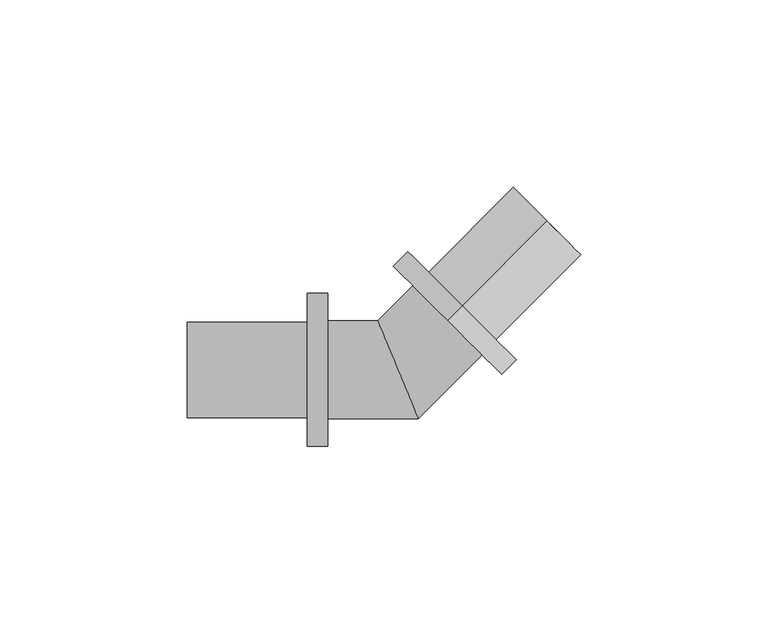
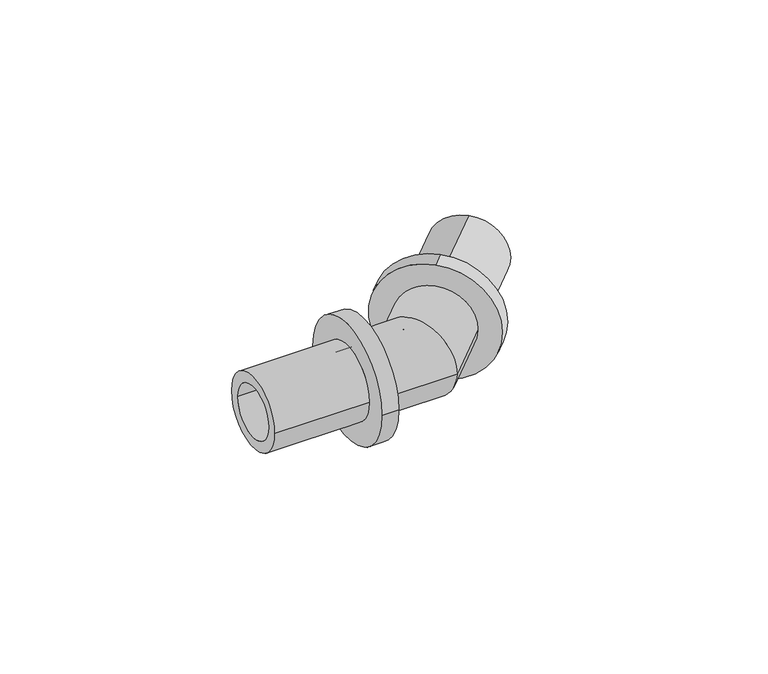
"""IFC4 building model written with IfcOpenShell, lengths in millimetres: pipe fitting geometry, RAUTITAN_Corner_PX : RTI PX C DN."""

import ifcopenshell
import ifcopenshell.guid

model = None  # the IFC model being written
_history = None  # IfcOwnerHistory: only IFC2X3 demands one
_inside = {}  # id of a spatial element -> (the spatial element, [elements in it])
_under = {}  # id of a project, library or spatial element -> (it, [spatial elements below it])
_declared = {}  # id of a project -> (the project, [libraries it declares])
_typed = {}  # id of a type object -> (the type object, [elements of that type])
_made_of = {}  # id of a material, layer set ... -> (it, [elements and type objects made of it])


def new_model(schema):
    """Start an empty IFC model of exactly this schema.

    Asked for "IFC4X3", IfcOpenShell would pick the latest addendum, in which some entities
    have other attributes; the version numbers below select the first issue.
    IFC2X3 requires an IfcOwnerHistory on every rooted entity: one is made here for all.
    """
    global model, _history
    if schema == "IFC4X3":
        model = ifcopenshell.file(schema_version=(4, 3, 0, 0))
    else:
        model = ifcopenshell.file(schema=schema)
    _inside.clear()
    _under.clear()
    _declared.clear()
    _typed.clear()
    _made_of.clear()
    _history = None
    if model.schema == "IFC2X3":
        org = make("IfcOrganization", Name="unknown")
        user = make(
            "IfcPersonAndOrganization",
            ThePerson=make("IfcPerson", FamilyName="unknown"),
            TheOrganization=org,
        )
        app = make(
            "IfcApplication",
            ApplicationDeveloper=org,
            Version="unknown",
            ApplicationFullName="unknown",
            ApplicationIdentifier="unknown",
        )
        _history = make(
            "IfcOwnerHistory",
            OwningUser=user,
            OwningApplication=app,
            ChangeAction="ADDED",
            CreationDate=0,
        )
    return model


def make(cls, **values):
    """One entity of the class cls with the attributes given. An attribute that is None is left unset."""
    return model.create_entity(
        cls, **{name: value for name, value in values.items() if value is not None}
    )


def rooted(cls, **values):
    """An entity with a GlobalId (a new one), such as an element, a storey or a relation."""
    return make(cls, GlobalId=ifcopenshell.guid.new(), OwnerHistory=_history, **values)


def si_unit(unit_type, name, prefix=None):
    """IfcSIUnit, for example si_unit("LENGTHUNIT", "METRE", prefix="MILLI")."""
    return make("IfcSIUnit", UnitType=unit_type, Prefix=prefix, Name=name)


def assignment(units):
    """IfcUnitAssignment: the units of a project."""
    return None if units is None else make("IfcUnitAssignment", Units=units)


def point(xyz):
    """IfcCartesianPoint."""
    return None if xyz is None else make("IfcCartesianPoint", Coordinates=xyz)


def direction(xyz):
    """IfcDirection."""
    return None if xyz is None else make("IfcDirection", DirectionRatios=xyz)


def frame(location, z_axis=None, x_axis=None):
    """IfcAxis2Placement3D, a coordinate frame: its origin and axes. An axis left out is left unset."""
    return make(
        "IfcAxis2Placement3D",
        Location=point(location),
        Axis=direction(z_axis),
        RefDirection=direction(x_axis),
    )


def origin():
    """The frame at (0, 0, 0) with its axes left unset."""
    return frame((0.0, 0.0, 0.0))


def place(relative_to, where):
    """IfcLocalPlacement: puts the frame where relative to a parent placement (None: the world)."""
    return make(
        "IfcLocalPlacement", PlacementRelTo=relative_to, RelativePlacement=where
    )


def context(
    kind, dimensions, precision=None, world=None, true_north=None, identifier=None
):
    """IfcGeometricRepresentationContext, for example the 3D "Model" context."""
    return make(
        "IfcGeometricRepresentationContext",
        ContextIdentifier=identifier,
        ContextType=kind,
        CoordinateSpaceDimension=dimensions,
        Precision=precision,
        WorldCoordinateSystem=world,
        TrueNorth=true_north,
    )


def project(units=None, contexts=None):
    """IfcProject with its units and contexts."""
    return rooted(
        "IfcProject",
        Name="project",
        RepresentationContexts=contexts,
        UnitsInContext=assignment(units),
    )


def spatial(cls, under=None, at=None, **own):
    """A site, building, storey or space (cls), placed at a placement, below another one or the project."""
    s = rooted(cls, ObjectPlacement=at, **own)
    if under is not None:
        _under.setdefault(under.id(), (under, []))[1].append(s)
    return s


def polyline(points):
    """IfcPolyline through the points."""
    return make("IfcPolyline", Points=[point(p) for p in points])


def circle_curve(where, radius):
    """IfcCircle in the frame where."""
    return make("IfcCircle", Position=where, Radius=radius)


def ellipse_curve(where, semi_axis1, semi_axis2):
    """IfcEllipse in the frame where."""
    return make(
        "IfcEllipse", Position=where, SemiAxis1=semi_axis1, SemiAxis2=semi_axis2
    )


def shape(context_of_items, identifier, shape_type, items):
    """IfcShapeRepresentation: the items that make up one representation, for example the "Body"."""
    return make(
        "IfcShapeRepresentation",
        ContextOfItems=context_of_items,
        RepresentationIdentifier=identifier,
        RepresentationType=shape_type,
        Items=items,
    )


def source(mapping_origin, context_of_items, identifier, shape_type, items):
    """IfcRepresentationMap: a shape defined once, which mapped items show again and again."""
    return make(
        "IfcRepresentationMap",
        MappingOrigin=mapping_origin,
        MappedRepresentation=shape(context_of_items, identifier, shape_type, items),
    )


def transform(
    local_origin,
    x_axis=None,
    y_axis=None,
    z_axis=None,
    scale=None,
    scale2=None,
    scale3=None,
    uniform=True,
):
    """IfcCartesianTransformationOperator3D, or its non-uniform kind. x_axis, y_axis, z_axis: its Axis1, 2, 3."""
    if uniform:
        return make(
            "IfcCartesianTransformationOperator3D",
            Axis1=direction(x_axis),
            Axis2=direction(y_axis),
            LocalOrigin=point(local_origin),
            Scale=scale,
            Axis3=direction(z_axis),
        )
    return make(
        "IfcCartesianTransformationOperator3DnonUniform",
        Axis1=direction(x_axis),
        Axis2=direction(y_axis),
        LocalOrigin=point(local_origin),
        Scale=scale,
        Axis3=direction(z_axis),
        Scale2=scale2,
        Scale3=scale3,
    )


def mapped(mapping_source, mapping_target):
    """IfcMappedItem: shows the shape of a source again, moved by a transform."""
    return make(
        "IfcMappedItem", MappingSource=mapping_source, MappingTarget=mapping_target
    )


def made_of(thing, what):
    """Note that an element or type object is made of a material, layer set ...; save() writes the relation."""
    if what is not None:
        _made_of.setdefault(what.id(), (what, []))[1].append(thing)
    return thing


def element(
    cls,
    number,
    at=None,
    inside=None,
    cuts=None,
    type_object=None,
    material=None,
    context=None,
    identifier="Body",
    shape_type=None,
    held_by="IfcProductDefinitionShape",
    body=None,
    shapes=None,
    **own,
):
    """One element of the class cls, such as IfcWall. Its Tag is "e" and its number.

    at: its placement. inside: the storey or other place that contains it. cuts: it is an
    opening in that element (IfcRelVoidsElement). A single representation is given by context,
    identifier, shape_type and body (its items); several are given by shapes. held_by: the class
    of the entity that holds the representations. save() writes the other relations.
    """
    e = rooted(cls, Tag="e%d" % number, ObjectPlacement=at, **own)
    if body is not None:
        shapes = [shape(context, identifier, shape_type, body)]
    if shapes is not None:
        e.Representation = make(held_by, Representations=shapes)
    if inside is not None:
        _inside.setdefault(inside.id(), (inside, []))[1].append(e)
    if cuts is not None:
        rooted(
            "IfcRelVoidsElement", RelatingBuildingElement=cuts, RelatedOpeningElement=e
        )
    if type_object is not None:
        _typed.setdefault(type_object.id(), (type_object, []))[1].append(e)
    return made_of(e, material)


def aggregate(whole, parts):
    """IfcRelAggregates: a whole, such as a stair, and the parts it consists of."""
    return rooted("IfcRelAggregates", RelatingObject=whole, RelatedObjects=parts)


def save(model, path):
    """Write the relations noted so far, then the file.

    IfcRelAggregates (storeys below a building ...), IfcRelContainedInSpatialStructure (elements
    in a storey), IfcRelDefinesByType, IfcRelAssociatesMaterial and IfcRelDeclares: one each for
    every whole, place, type object, material and project.
    """
    for whole, parts in _under.values():
        aggregate(whole, parts)
    for where, things in _inside.values():
        rooted(
            "IfcRelContainedInSpatialStructure",
            RelatedElements=things,
            RelatingStructure=where,
        )
    for kind, things in _typed.values():
        rooted("IfcRelDefinesByType", RelatedObjects=things, RelatingType=kind)
    for what, things in _made_of.values():
        rooted("IfcRelAssociatesMaterial", RelatedObjects=things, RelatingMaterial=what)
    for by, libraries in _declared.values():
        rooted("IfcRelDeclares", RelatingContext=by, RelatedDefinitions=libraries)
    model.write(path)


def plane_surface(at):
    """IfcPlane: the flat surface through the origin of the frame at, square to its z axis."""
    return make("IfcPlane", Position=at)


def cylinder_surface(at, radius):
    """IfcCylindricalSurface: all points at the distance radius from the z axis of the frame at."""
    return make("IfcCylindricalSurface", Position=at, Radius=radius)


def revolved_surface(curve, axis_point, axis_direction):
    """IfcSurfaceOfRevolution: the curve turned about the line through axis_point along axis_direction."""
    return make(
        "IfcSurfaceOfRevolution",
        SweptCurve=make("IfcArbitraryOpenProfileDef", ProfileType="CURVE", Curve=curve),
        AxisPosition=make("IfcAxis1Placement", Location=point(axis_point), Axis=direction(axis_direction)),
    )


def advanced_brep(points, edges, surfaces, faces):
    """IfcAdvancedBrep: a solid bounded by faces that lie on surfaces and meet in shared edges.

    An edge is (start, end): straight between two places in points (the first is 0);
    or (start, end, curve); or (start, end, curve, False) where it runs against its curve.
    A face is (place in surfaces, loops), or (place, loops, False) where it looks against
    its surface's normal. A loop lists edges by number (the first is 1), with a minus sign
    where the edge is run from its end to its start. The first loop is the outer one.
    """
    corners = [point(p) for p in points]
    vertices = [make("IfcVertexPoint", VertexGeometry=c) for c in corners]
    made = []
    for start, end, *more in edges:
        made.append(
            make(
                "IfcEdgeCurve",
                EdgeStart=vertices[start],
                EdgeEnd=vertices[end],
                EdgeGeometry=more[0] if more else make("IfcPolyline", Points=[corners[start], corners[end]]),
                SameSense=more[1] if len(more) > 1 else True,
            )
        )
    hull = []
    for where, loops, *sense in faces:
        bounds = []
        for j, loop in enumerate(loops):
            ring = [make("IfcOrientedEdge", EdgeElement=made[abs(k) - 1], Orientation=k > 0) for k in loop]
            bounds.append(
                make(
                    "IfcFaceOuterBound" if j == 0 else "IfcFaceBound",
                    Bound=make("IfcEdgeLoop", EdgeList=ring),
                    Orientation=True,
                )
            )
        hull.append(make("IfcAdvancedFace", Bounds=bounds, FaceSurface=surfaces[where], SameSense=sense[0] if sense else True))
    return make("IfcAdvancedBrep", Outer=make("IfcClosedShell", CfsFaces=hull))


def pipe_fitting_39403945(model_context):
    return source(origin(), model_context, "Body", "AdvancedBrep", [
        advanced_brep(
        [(17.1213203, 17.1213203, 20.45), (17.1213203, 17.1213203, -20.45), (13.232233, 13.232233, -20.45), (13.232233, 13.232233, 20.45), (39.7487373, 39.7487373, 12.75), (39.7487373, 39.7487373, -12.75), (17.1213203, 17.1213203, -12.75), (17.1213203, 17.1213203, 12.75), (13.232233, 13.232233, 9.05), (13.232233, 13.232233, -9.05), (39.7487373, 39.7487373, -9.05), (39.7487373, 39.7487373, 9.05)],
        [
            (0, 1, circle_curve(frame((17.1213203, 17.1213203, 0.0), z_axis=(-0.707106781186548, -0.707106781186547, 0.0), x_axis=(0.0, 0.0, -1.0)), 20.45)),
            (1, 2),
            (2, 3, circle_curve(frame((13.232233, 13.232233, 0.0), z_axis=(0.707106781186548, 0.707106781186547, 0.0), x_axis=(0.0, 0.0, -1.0)), 20.45)),
            (3, 0),
            (4, 5, circle_curve(frame((39.7487373, 39.7487373, 0.0), z_axis=(-0.707106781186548, -0.707106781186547, 0.0), x_axis=(0.0, 0.0, -1.0)), 12.75)),
            (5, 6),
            (6, 7, circle_curve(frame((17.1213203, 17.1213203, 0.0), z_axis=(0.707106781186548, 0.707106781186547, 0.0), x_axis=(0.0, 0.0, -1.0)), 12.75)),
            (7, 4),
            (8, 9, circle_curve(frame((13.232233, 13.232233, 0.0), z_axis=(-0.707106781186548, -0.707106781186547, 0.0), x_axis=(0.0, 0.0, -1.0)), 9.05)),
            (9, 10),
            (10, 11, circle_curve(frame((39.7487373, 39.7487373, 0.0), z_axis=(0.707106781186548, 0.707106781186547, 0.0), x_axis=(0.0, 0.0, -1.0)), 9.05)),
            (11, 8),
            (1, 0, circle_curve(frame((17.1213203, 17.1213203, 0.0), z_axis=(-0.707106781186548, -0.707106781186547, 0.0), x_axis=(0.0, 0.0, 1.0)), 20.45)),
            (3, 2, circle_curve(frame((13.232233, 13.232233, 0.0), z_axis=(0.707106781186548, 0.707106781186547, 0.0), x_axis=(0.0, 0.0, 1.0)), 20.45)),
            (6, 7, circle_curve(frame((17.1213203, 17.1213203, 0.0), z_axis=(-0.707106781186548, -0.707106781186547, 0.0), x_axis=(0.0, 0.0, 1.0)), 12.75)),
            (5, 4, circle_curve(frame((39.7487373, 39.7487373, 0.0), z_axis=(-0.707106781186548, -0.707106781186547, 0.0), x_axis=(0.0, 0.0, 1.0)), 12.75)),
            (10, 11, circle_curve(frame((39.7487373, 39.7487373, 0.0), z_axis=(-0.707106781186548, -0.707106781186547, 0.0), x_axis=(0.0, 0.0, 1.0)), 9.05)),
            (9, 8, circle_curve(frame((13.232233, 13.232233, 0.0), z_axis=(-0.707106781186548, -0.707106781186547, 0.0), x_axis=(0.0, 0.0, 1.0)), 9.05)),
        ],
        [
            cylinder_surface(frame((13.232233, 13.232233, 0.0), z_axis=(0.707106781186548, 0.707106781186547, 0.0), x_axis=(0.0, 0.0, -1.0)), 20.45),
            cylinder_surface(frame((13.232233, 13.232233, 0.0), z_axis=(0.707106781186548, 0.707106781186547, 0.0), x_axis=(0.0, 0.0, -1.0)), 12.75),
            revolved_surface(polyline([(39.748737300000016, 39.74873729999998, -9.05), (13.232233, 13.232233, -9.05)]), (13.232233, 13.232233, 0.0), (0.707106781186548, 0.707106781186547, 0.0)),
            cylinder_surface(frame((13.232233, 13.232233, 0.0), z_axis=(0.707106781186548, 0.707106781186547, 0.0), x_axis=(0.0, 0.0, 1.0)), 20.45),
            plane_surface(frame((17.1213203, 17.1213203, 0.0), z_axis=(0.707106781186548, 0.707106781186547, 0.0), x_axis=(0.0, 0.0, 1.0))),
            cylinder_surface(frame((13.232233, 13.232233, 0.0), z_axis=(0.707106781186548, 0.707106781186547, 0.0), x_axis=(0.0, 0.0, 1.0)), 12.75),
            plane_surface(frame((39.7487373, 39.7487373, 0.0), z_axis=(0.707106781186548, 0.707106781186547, 0.0), x_axis=(0.0, 0.0, 1.0))),
            revolved_surface(polyline([(39.748737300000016, 39.74873729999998, 9.05), (13.232233, 13.232233, 9.05)]), (13.232233, 13.232233, 0.0), (0.707106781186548, 0.707106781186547, 0.0)),
            plane_surface(frame((13.232233, 13.232233, 0.0), z_axis=(-0.707106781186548, -0.707106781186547, 0.0), x_axis=(0.0, 0.0, 1.0))),
        ],
        [
            (0, [[1, 2, 3, 4]]),
            (1, [[5, 6, 7, 8]]),
            (2, [[9, 10, 11, 12]]),
            (3, [[13, -4, 14, -2]]),
            (4, [[-13, -1], [15, -7]]),
            (5, [[16, -8, -15, -6]]),
            (6, [[-16, -5], [17, -11]]),
            (7, [[18, -12, -17, -10]]),
            (8, [[-14, -3], [-18, -9]]),
        ],
    ),
        advanced_brep(
        [(-24.2132034, -20.45, 0.0), (-24.2132034, 20.45, 0.0), (-18.7132034, 20.45, 0.0), (-18.7132034, -20.45, 0.0), (-56.2132034, -12.75, 0.0), (-56.2132034, 12.75, 0.0), (-24.2132034, 12.75, 0.0), (-24.2132034, -12.75, 0.0), (-18.7132034, -9.05, 0.0), (-18.7132034, 9.05, 0.0), (-56.2132034, 9.05, 0.0), (-56.2132034, -9.05, 0.0)],
        [
            (0, 1, circle_curve(frame((-24.2132034, 0.0, 0.0), z_axis=(1.0, 0.0, 0.0), x_axis=(0.0, 1.0, 0.0)), 20.45)),
            (1, 2),
            (2, 3, circle_curve(frame((-18.7132034, 0.0, 0.0), z_axis=(-1.0, 0.0, 0.0), x_axis=(0.0, 1.0, 0.0)), 20.45)),
            (3, 0),
            (4, 5, circle_curve(frame((-56.2132034, 0.0, 0.0), z_axis=(1.0, 0.0, 0.0), x_axis=(0.0, 1.0, 0.0)), 12.75)),
            (5, 6),
            (6, 7, circle_curve(frame((-24.2132034, 0.0, 0.0), z_axis=(-1.0, 0.0, 0.0), x_axis=(0.0, 1.0, 0.0)), 12.75)),
            (7, 4),
            (8, 9, circle_curve(frame((-18.7132034, 0.0, 0.0), z_axis=(1.0, 0.0, 0.0), x_axis=(0.0, 1.0, 0.0)), 9.05)),
            (9, 10),
            (10, 11, circle_curve(frame((-56.2132034, 0.0, 0.0), z_axis=(-1.0, 0.0, 0.0), x_axis=(0.0, 1.0, 0.0)), 9.05)),
            (11, 8),
            (1, 0, circle_curve(frame((-24.2132034, 0.0, 0.0), z_axis=(1.0, 0.0, 0.0), x_axis=(0.0, -1.0, 0.0)), 20.45)),
            (3, 2, circle_curve(frame((-18.7132034, 0.0, 0.0), z_axis=(-1.0, 0.0, 0.0), x_axis=(0.0, -1.0, 0.0)), 20.45)),
            (6, 7, circle_curve(frame((-24.2132034, 0.0, 0.0), z_axis=(1.0, 0.0, 0.0), x_axis=(0.0, -1.0, 0.0)), 12.75)),
            (5, 4, circle_curve(frame((-56.2132034, 0.0, 0.0), z_axis=(1.0, 0.0, 0.0), x_axis=(0.0, -1.0, 0.0)), 12.75)),
            (10, 11, circle_curve(frame((-56.2132034, 0.0, 0.0), z_axis=(1.0, 0.0, 0.0), x_axis=(0.0, -1.0, 0.0)), 9.05)),
            (9, 8, circle_curve(frame((-18.7132034, 0.0, 0.0), z_axis=(1.0, 0.0, 0.0), x_axis=(0.0, -1.0, 0.0)), 9.05)),
        ],
        [
            cylinder_surface(frame((-18.7132034, 0.0, 0.0), z_axis=(-1.0, 0.0, 0.0), x_axis=(0.0, 1.0, 0.0)), 20.45),
            cylinder_surface(frame((-18.7132034, 0.0, 0.0), z_axis=(-1.0, 0.0, 0.0), x_axis=(0.0, 1.0, 0.0)), 12.75),
            revolved_surface(polyline([(-56.2132034, 9.05, 0.0), (-18.7132034, 9.05, 0.0)]), (-18.7132034, 0.0, 0.0), (-1.0, 0.0, 0.0)),
            cylinder_surface(frame((-18.7132034, 0.0, 0.0), z_axis=(-1.0, 0.0, 0.0), x_axis=(0.0, -1.0, 0.0)), 20.45),
            plane_surface(frame((-24.2132034, 0.0, 0.0), z_axis=(-1.0, 0.0, 0.0), x_axis=(0.0, -1.0, 0.0))),
            cylinder_surface(frame((-18.7132034, 0.0, 0.0), z_axis=(-1.0, 0.0, 0.0), x_axis=(0.0, -1.0, 0.0)), 12.75),
            plane_surface(frame((-56.2132034, 0.0, 0.0), z_axis=(-1.0, 0.0, 0.0), x_axis=(0.0, -1.0, 0.0))),
            revolved_surface(polyline([(-56.2132034, -9.05, 0.0), (-18.7132034, -9.05, 0.0)]), (-18.7132034, 0.0, 0.0), (-1.0, 0.0, 0.0)),
            plane_surface(frame((-18.7132034, 0.0, 0.0), z_axis=(1.0, 0.0, 0.0), x_axis=(0.0, -1.0, 0.0))),
        ],
        [
            (0, [[1, 2, 3, 4]]),
            (1, [[5, 6, 7, 8]]),
            (2, [[9, 10, 11, 12]]),
            (3, [[13, -4, 14, -2]]),
            (4, [[-13, -1], [15, -7]]),
            (5, [[16, -8, -15, -6]]),
            (6, [[-16, -5], [17, -11]]),
            (7, [[18, -12, -17, -10]]),
            (8, [[-14, -3], [-18, -9]]),
        ],
    ),
        advanced_brep(
        [(-18.7132034, -13.05, 0.0), (-18.7132034, 13.05, 0.0), (-18.7132034, -9.05, 0.0), (-18.7132034, 9.05, 0.0), (-3.7486327, 9.05, 0.0), (3.7486327, -9.05, 0.0), (22.4599765, 4.0044896, 0.0), (4.0044896, 22.4599765, 0.0), (19.6315494, 6.8329167, 0.0), (6.8329167, 19.6315494, 0.0), (5.405487, -13.05, 0.0), (-5.405487, 13.05, 0.0)],
        [
            (0, 1, circle_curve(frame((-18.7132034, 0.0, 0.0), z_axis=(-1.0, 0.0, 0.0), x_axis=(0.0, 1.0, 0.0)), 13.05)),
            (1, 0, circle_curve(frame((-18.7132034, 0.0, 0.0), z_axis=(-1.0, 0.0, 0.0), x_axis=(0.0, 1.0, 0.0)), 13.05)),
            (2, 3, circle_curve(frame((-18.7132034, 0.0, 0.0), z_axis=(1.0, 0.0, 0.0), x_axis=(0.0, 1.0, 0.0)), 9.05)),
            (3, 2, circle_curve(frame((-18.7132034, 0.0, 0.0), z_axis=(1.0, 0.0, 0.0), x_axis=(0.0, 1.0, 0.0)), 9.05)),
            (3, 4),
            (4, 5, ellipse_curve(frame((0.0, 0.0, 0.0), z_axis=(0.9238795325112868, 0.38268343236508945, 0.0), x_axis=(0.3826834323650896, -0.923879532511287, 0.0)), 9.7956494, 9.05)),
            (5, 2),
            (5, 4, ellipse_curve(frame((0.0, 0.0, 0.0), z_axis=(0.9238795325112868, 0.38268343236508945, 0.0), x_axis=(0.3826834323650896, -0.923879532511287, 0.0)), 9.7956494, 9.05)),
            (6, 7, circle_curve(frame((13.232233, 13.232233, 0.0), z_axis=(0.707106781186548, 0.707106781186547, 0.0), x_axis=(-0.707106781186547, 0.707106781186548, 0.0)), 13.05)),
            (7, 6, circle_curve(frame((13.232233, 13.232233, 0.0), z_axis=(0.707106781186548, 0.707106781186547, 0.0), x_axis=(-0.707106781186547, 0.707106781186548, 0.0)), 13.05)),
            (8, 9, circle_curve(frame((13.232233, 13.232233, 0.0), z_axis=(-0.707106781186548, -0.707106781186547, 0.0), x_axis=(-0.707106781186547, 0.707106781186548, 0.0)), 9.05)),
            (9, 8, circle_curve(frame((13.232233, 13.232233, 0.0), z_axis=(-0.707106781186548, -0.707106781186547, 0.0), x_axis=(-0.707106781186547, 0.707106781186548, 0.0)), 9.05)),
            (4, 9),
            (8, 5),
            (0, 10),
            (10, 11, ellipse_curve(frame((0.0, 0.0, 0.0), z_axis=(-0.9238795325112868, -0.38268343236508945, 0.0), x_axis=(-0.3826834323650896, 0.923879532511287, 0.0)), 14.1252182, 13.05)),
            (11, 1),
            (11, 10, ellipse_curve(frame((0.0, 0.0, 0.0), z_axis=(-0.9238795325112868, -0.38268343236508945, 0.0), x_axis=(-0.3826834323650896, 0.923879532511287, 0.0)), 14.1252182, 13.05)),
            (10, 6),
            (7, 11),
        ],
        [
            plane_surface(frame((-18.7132034, 0.0, 0.0), z_axis=(-1.0, 0.0, 0.0), x_axis=(0.0, 0.0, 1.0))),
            revolved_surface(polyline([(3.748632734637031, 9.05, 0.0), (-18.7132034, 9.05, 0.0)]), (-18.7132034, 0.0, 0.0), (1.0, 0.0, 0.0)),
            plane_surface(frame((13.232233, 13.232233, 0.0), z_axis=(0.707106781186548, 0.707106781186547, 0.0), x_axis=(0.0, 0.0, 1.0))),
            revolved_surface(polyline([(6.832916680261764, 19.631549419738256, 0.0), (-9.050000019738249, 3.748632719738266, 0.0)]), (0.0, 0.0, 0.0), (0.707106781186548, 0.707106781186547, 0.0)),
            cylinder_surface(frame((-18.7132034, 0.0, 0.0), z_axis=(-1.0, 0.0, 0.0), x_axis=(0.0, 1.0, 0.0)), 13.05),
            cylinder_surface(frame((0.0, 0.0, 0.0), z_axis=(-0.707106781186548, -0.707106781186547, 0.0), x_axis=(-0.707106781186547, 0.707106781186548, 0.0)), 13.05),
        ],
        [
            (0, [[1, 2], [3, 4]]),
            (1, [[-4, 5, 6, 7]]),
            (1, [[-3, -7, 8, -5]]),
            (2, [[9, 10], [11, 12]]),
            (3, [[-6, 13, -11, 14]]),
            (3, [[-8, -14, -12, -13]]),
            (4, [[-1, 15, 16, 17]]),
            (4, [[-2, -17, 18, -15]]),
            (5, [[-16, 19, -10, 20]]),
            (5, [[-18, -20, -9, -19]]),
        ],
    ),
    ])


if __name__ == "__main__":
    model = new_model("IFC4")
    model_context = context("Model", 3, world=origin())
    ifc_project = project(units=[si_unit("LENGTHUNIT", "METRE", prefix="MILLI")], contexts=[model_context])
    site = spatial("IfcSite", under=ifc_project)
    building = spatial("IfcBuilding", under=site)
    placement = place(None, origin())
    pipe_fitting_shape = pipe_fitting_39403945(model_context)
    element("IfcPipeFitting", 1, ObjectType="RAUTITAN_Corner_PX : RTI PX C DN", at=placement, inside=building, context=model_context, shape_type="MappedRepresentation", body=[
        mapped(pipe_fitting_shape, transform((0.0, 0.0, 0.0), x_axis=(1.0, 0.0, 0.0), y_axis=(0.0, 1.0, 0.0), z_axis=(0.0, 0.0, 1.0))),
    ])
    save(model, "model.ifc")
